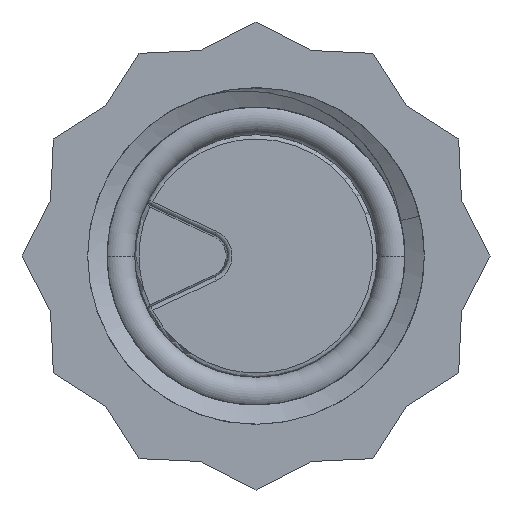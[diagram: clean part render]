
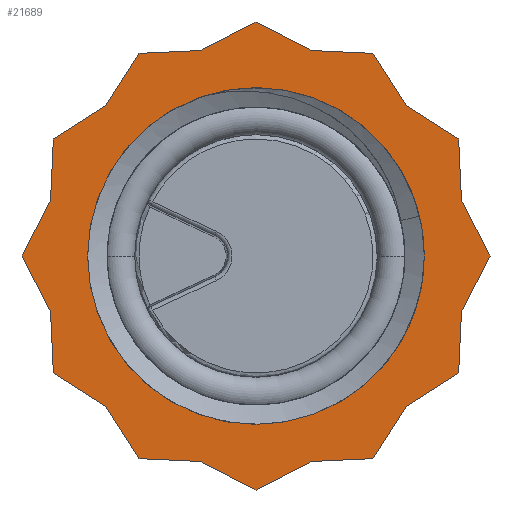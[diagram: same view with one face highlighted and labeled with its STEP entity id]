
A CAD part, left-side view. The second image highlights one B-rep face of the part: STEP entity #21689.
In plain terms, the highlighted planar face has unit normal (-1, 0, 0).
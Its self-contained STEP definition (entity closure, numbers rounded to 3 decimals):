
#7048=DIRECTION('',(0.,0.999,0.046));
#7049=VECTOR('',#7048,1.457);
#7050=CARTESIAN_POINT('',(-13.4,1.294,-4.83));
#7051=LINE('',#7050,#7049);
#7052=DIRECTION('',(0.,0.539,0.842));
#7053=VECTOR('',#7052,1.457);
#7054=CARTESIAN_POINT('',(-13.4,2.75,-4.763));
#7055=LINE('',#7054,#7053);
#7056=DIRECTION('',(0.,0.842,0.539));
#7057=VECTOR('',#7056,1.457);
#7058=CARTESIAN_POINT('',(-13.4,3.536,-3.536));
#7059=LINE('',#7058,#7057);
#7060=DIRECTION('',(0.,0.046,0.999));
#7061=VECTOR('',#7060,1.457);
#7062=CARTESIAN_POINT('',(-13.4,4.763,-2.75));
#7063=LINE('',#7062,#7061);
#7064=DIRECTION('',(0.,0.46,0.888));
#7065=VECTOR('',#7064,1.457);
#7066=CARTESIAN_POINT('',(-13.4,4.83,-1.294));
#7067=LINE('',#7066,#7065);
#7068=DIRECTION('',(0.,-0.46,0.888));
#7069=VECTOR('',#7068,1.457);
#7070=CARTESIAN_POINT('',(-13.4,5.5,0.));
#7071=LINE('',#7070,#7069);
#7072=DIRECTION('',(0.,-0.046,0.999));
#7073=VECTOR('',#7072,1.457);
#7074=CARTESIAN_POINT('',(-13.4,4.83,1.294));
#7075=LINE('',#7074,#7073);
#7076=DIRECTION('',(0.,-0.842,0.539));
#7077=VECTOR('',#7076,1.457);
#7078=CARTESIAN_POINT('',(-13.4,4.763,2.75));
#7079=LINE('',#7078,#7077);
#7080=DIRECTION('',(0.,-0.539,0.842));
#7081=VECTOR('',#7080,1.457);
#7082=CARTESIAN_POINT('',(-13.4,3.536,3.536));
#7083=LINE('',#7082,#7081);
#7084=DIRECTION('',(0.,-0.999,0.046));
#7085=VECTOR('',#7084,1.457);
#7086=CARTESIAN_POINT('',(-13.4,2.75,4.763));
#7087=LINE('',#7086,#7085);
#7088=DIRECTION('',(0.,-0.888,0.46));
#7089=VECTOR('',#7088,1.457);
#7090=CARTESIAN_POINT('',(-13.4,1.294,4.83));
#7091=LINE('',#7090,#7089);
#7092=DIRECTION('',(0.,-0.888,-0.46));
#7093=VECTOR('',#7092,1.457);
#7094=CARTESIAN_POINT('',(-13.4,0.,5.5));
#7095=LINE('',#7094,#7093);
#7096=DIRECTION('',(0.,-0.999,-0.046));
#7097=VECTOR('',#7096,1.457);
#7098=CARTESIAN_POINT('',(-13.4,-1.294,4.83));
#7099=LINE('',#7098,#7097);
#7100=DIRECTION('',(0.,-0.539,-0.842));
#7101=VECTOR('',#7100,1.457);
#7102=CARTESIAN_POINT('',(-13.4,-2.75,4.763));
#7103=LINE('',#7102,#7101);
#7104=DIRECTION('',(0.,-0.842,-0.539));
#7105=VECTOR('',#7104,1.457);
#7106=CARTESIAN_POINT('',(-13.4,-3.536,3.536));
#7107=LINE('',#7106,#7105);
#7108=DIRECTION('',(0.,-0.046,-0.999));
#7109=VECTOR('',#7108,1.457);
#7110=CARTESIAN_POINT('',(-13.4,-4.763,2.75));
#7111=LINE('',#7110,#7109);
#7112=DIRECTION('',(0.,-0.46,-0.888));
#7113=VECTOR('',#7112,1.457);
#7114=CARTESIAN_POINT('',(-13.4,-4.83,1.294));
#7115=LINE('',#7114,#7113);
#7116=DIRECTION('',(0.,0.46,-0.888));
#7117=VECTOR('',#7116,1.457);
#7118=CARTESIAN_POINT('',(-13.4,-5.5,0.));
#7119=LINE('',#7118,#7117);
#7120=DIRECTION('',(0.,0.046,-0.999));
#7121=VECTOR('',#7120,1.457);
#7122=CARTESIAN_POINT('',(-13.4,-4.83,-1.294));
#7123=LINE('',#7122,#7121);
#7124=DIRECTION('',(0.,0.842,-0.539));
#7125=VECTOR('',#7124,1.457);
#7126=CARTESIAN_POINT('',(-13.4,-4.763,-2.75));
#7127=LINE('',#7126,#7125);
#7128=DIRECTION('',(0.,0.539,-0.842));
#7129=VECTOR('',#7128,1.457);
#7130=CARTESIAN_POINT('',(-13.4,-3.536,-3.536));
#7131=LINE('',#7130,#7129);
#7132=DIRECTION('',(0.,0.999,-0.046));
#7133=VECTOR('',#7132,1.457);
#7134=CARTESIAN_POINT('',(-13.4,-2.75,-4.763));
#7135=LINE('',#7134,#7133);
#7136=DIRECTION('',(0.,0.888,-0.46));
#7137=VECTOR('',#7136,1.457);
#7138=CARTESIAN_POINT('',(-13.4,-1.294,-4.83));
#7139=LINE('',#7138,#7137);
#7140=DIRECTION('',(0.,0.888,0.46));
#7141=VECTOR('',#7140,1.457);
#7142=CARTESIAN_POINT('',(-13.4,0.,-5.5));
#7143=LINE('',#7142,#7141);
#7144=CARTESIAN_POINT('',(-13.4,0.,0.));
#7145=DIRECTION('',(-1.,0.,0.));
#7146=DIRECTION('',(0.,-1.,0.));
#7147=AXIS2_PLACEMENT_3D('',#7144,#7145,#7146);
#7149=CARTESIAN_POINT('',(-13.4,0.,0.));
#7150=DIRECTION('',(-1.,0.,0.));
#7151=DIRECTION('',(0.,1.,0.));
#7152=AXIS2_PLACEMENT_3D('',#7149,#7150,#7151);
#9556=CARTESIAN_POINT('',(-13.4,0.,5.5));
#9557=VERTEX_POINT('',#9556);
#9559=CARTESIAN_POINT('',(-13.4,-1.294,4.83));
#9560=VERTEX_POINT('',#9559);
#9562=CARTESIAN_POINT('',(-13.4,-2.75,4.763));
#9563=VERTEX_POINT('',#9562);
#9565=CARTESIAN_POINT('',(-13.4,-3.536,3.536));
#9566=VERTEX_POINT('',#9565);
#9568=CARTESIAN_POINT('',(-13.4,-4.763,2.75));
#9569=VERTEX_POINT('',#9568);
#9571=CARTESIAN_POINT('',(-13.4,-4.83,1.294));
#9572=VERTEX_POINT('',#9571);
#9574=CARTESIAN_POINT('',(-13.4,-5.5,0.));
#9575=VERTEX_POINT('',#9574);
#9577=CARTESIAN_POINT('',(-13.4,-4.83,-1.294));
#9578=VERTEX_POINT('',#9577);
#9580=CARTESIAN_POINT('',(-13.4,-4.763,-2.75));
#9581=VERTEX_POINT('',#9580);
#9583=CARTESIAN_POINT('',(-13.4,-3.536,-3.536));
#9584=VERTEX_POINT('',#9583);
#9586=CARTESIAN_POINT('',(-13.4,-2.75,-4.763));
#9587=VERTEX_POINT('',#9586);
#9589=CARTESIAN_POINT('',(-13.4,-1.294,-4.83));
#9590=VERTEX_POINT('',#9589);
#9592=CARTESIAN_POINT('',(-13.4,1.294,-4.83));
#9593=VERTEX_POINT('',#9592);
#9594=CARTESIAN_POINT('',(-13.4,0.,-5.5));
#9595=VERTEX_POINT('',#9594);
#9597=CARTESIAN_POINT('',(-13.4,2.75,-4.763));
#9598=VERTEX_POINT('',#9597);
#9600=CARTESIAN_POINT('',(-13.4,3.536,-3.536));
#9601=VERTEX_POINT('',#9600);
#9603=CARTESIAN_POINT('',(-13.4,4.763,-2.75));
#9604=VERTEX_POINT('',#9603);
#9606=CARTESIAN_POINT('',(-13.4,4.83,-1.294));
#9607=VERTEX_POINT('',#9606);
#9609=CARTESIAN_POINT('',(-13.4,5.5,0.));
#9610=VERTEX_POINT('',#9609);
#9612=CARTESIAN_POINT('',(-13.4,4.83,1.294));
#9613=VERTEX_POINT('',#9612);
#9615=CARTESIAN_POINT('',(-13.4,4.763,2.75));
#9616=VERTEX_POINT('',#9615);
#9618=CARTESIAN_POINT('',(-13.4,3.536,3.536));
#9619=VERTEX_POINT('',#9618);
#9621=CARTESIAN_POINT('',(-13.4,2.75,4.763));
#9622=VERTEX_POINT('',#9621);
#9623=CARTESIAN_POINT('',(-13.4,1.294,4.83));
#9624=VERTEX_POINT('',#9623);
#9625=CARTESIAN_POINT('',(-13.4,-3.957,0.));
#9626=CARTESIAN_POINT('',(-13.4,3.957,0.));
#9627=VERTEX_POINT('',#9625);
#9628=VERTEX_POINT('',#9626);
#21652=CARTESIAN_POINT('',(-13.4,0.,0.));
#21653=DIRECTION('',(1.,0.,0.));
#21654=DIRECTION('',(0.,-1.,0.));
#21655=AXIS2_PLACEMENT_3D('',#21652,#21653,#21654);
#21656=PLANE('',#21655);
#21657=ORIENTED_EDGE('',*,*,#21451,.T.);
#21658=ORIENTED_EDGE('',*,*,#21472,.T.);
#21659=ORIENTED_EDGE('',*,*,#21493,.T.);
#21660=ORIENTED_EDGE('',*,*,#21514,.T.);
#21661=ORIENTED_EDGE('',*,*,#21535,.T.);
#21662=ORIENTED_EDGE('',*,*,#21556,.T.);
#21663=ORIENTED_EDGE('',*,*,#21577,.T.);
#21664=ORIENTED_EDGE('',*,*,#21598,.T.);
#21665=ORIENTED_EDGE('',*,*,#21619,.T.);
#21666=ORIENTED_EDGE('',*,*,#21639,.T.);
#21667=ORIENTED_EDGE('',*,*,#21156,.T.);
#21668=ORIENTED_EDGE('',*,*,#21178,.T.);
#21669=ORIENTED_EDGE('',*,*,#21199,.T.);
#21670=ORIENTED_EDGE('',*,*,#21220,.T.);
#21671=ORIENTED_EDGE('',*,*,#21241,.T.);
#21672=ORIENTED_EDGE('',*,*,#21262,.T.);
#21673=ORIENTED_EDGE('',*,*,#21283,.T.);
#21674=ORIENTED_EDGE('',*,*,#21304,.T.);
#21675=ORIENTED_EDGE('',*,*,#21325,.T.);
#21676=ORIENTED_EDGE('',*,*,#21346,.T.);
#21677=ORIENTED_EDGE('',*,*,#21367,.T.);
#21678=ORIENTED_EDGE('',*,*,#21388,.T.);
#21679=ORIENTED_EDGE('',*,*,#21409,.T.);
#21680=ORIENTED_EDGE('',*,*,#21430,.T.);
#21681=EDGE_LOOP('',(#21657,#21658,#21659,#21660,#21661,#21662,#21663,#21664,
#21665,#21666,#21667,#21668,#21669,#21670,#21671,#21672,#21673,#21674,#21675,
#21676,#21677,#21678,#21679,#21680));
#21682=FACE_OUTER_BOUND('',#21681,.F.);
#21684=ORIENTED_EDGE('',*,*,#21683,.T.);
#21686=ORIENTED_EDGE('',*,*,#21685,.T.);
#21687=EDGE_LOOP('',(#21684,#21686));
#21688=FACE_BOUND('',#21687,.F.);
#21689=ADVANCED_FACE('',(#21682,#21688),#21656,.F.);
#7148=CIRCLE('',#7147,3.957);
#7153=CIRCLE('',#7152,3.957);
#21156=EDGE_CURVE('',#9624,#9557,#7091,.T.);
#21178=EDGE_CURVE('',#9557,#9560,#7095,.T.);
#21199=EDGE_CURVE('',#9560,#9563,#7099,.T.);
#21220=EDGE_CURVE('',#9563,#9566,#7103,.T.);
#21241=EDGE_CURVE('',#9566,#9569,#7107,.T.);
#21262=EDGE_CURVE('',#9569,#9572,#7111,.T.);
#21283=EDGE_CURVE('',#9572,#9575,#7115,.T.);
#21304=EDGE_CURVE('',#9575,#9578,#7119,.T.);
#21325=EDGE_CURVE('',#9578,#9581,#7123,.T.);
#21346=EDGE_CURVE('',#9581,#9584,#7127,.T.);
#21367=EDGE_CURVE('',#9584,#9587,#7131,.T.);
#21388=EDGE_CURVE('',#9587,#9590,#7135,.T.);
#21409=EDGE_CURVE('',#9590,#9595,#7139,.T.);
#21430=EDGE_CURVE('',#9595,#9593,#7143,.T.);
#21451=EDGE_CURVE('',#9593,#9598,#7051,.T.);
#21472=EDGE_CURVE('',#9598,#9601,#7055,.T.);
#21493=EDGE_CURVE('',#9601,#9604,#7059,.T.);
#21514=EDGE_CURVE('',#9604,#9607,#7063,.T.);
#21535=EDGE_CURVE('',#9607,#9610,#7067,.T.);
#21556=EDGE_CURVE('',#9610,#9613,#7071,.T.);
#21577=EDGE_CURVE('',#9613,#9616,#7075,.T.);
#21598=EDGE_CURVE('',#9616,#9619,#7079,.T.);
#21619=EDGE_CURVE('',#9619,#9622,#7083,.T.);
#21639=EDGE_CURVE('',#9622,#9624,#7087,.T.);
#21683=EDGE_CURVE('',#9627,#9628,#7148,.T.);
#21685=EDGE_CURVE('',#9628,#9627,#7153,.T.);
